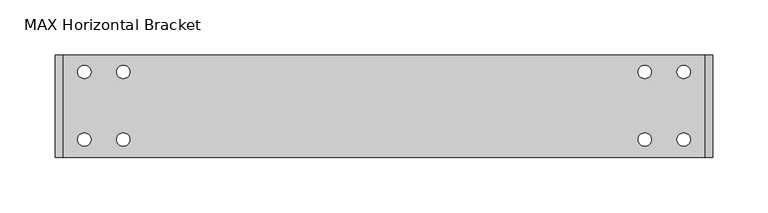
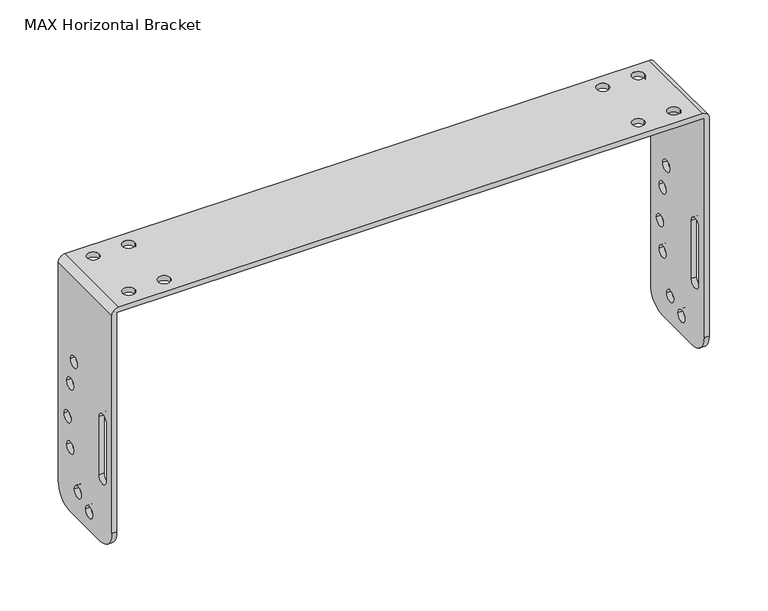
"""IFC4 building model written with IfcOpenShell, lengths in millimetres: proxy geometry, d&b M-Series MAX Horizontal Bracket : MAX Horizontal Bracket."""

import ifcopenshell
import ifcopenshell.guid

model = None  # the IFC model being written
_history = None  # IfcOwnerHistory: only IFC2X3 demands one
_inside = {}  # id of a spatial element -> (the spatial element, [elements in it])
_under = {}  # id of a project, library or spatial element -> (it, [spatial elements below it])
_declared = {}  # id of a project -> (the project, [libraries it declares])
_typed = {}  # id of a type object -> (the type object, [elements of that type])
_made_of = {}  # id of a material, layer set ... -> (it, [elements and type objects made of it])


def new_model(schema):
    """Start an empty IFC model of exactly this schema.

    Asked for "IFC4X3", IfcOpenShell would pick the latest addendum, in which some entities
    have other attributes; the version numbers below select the first issue.
    IFC2X3 requires an IfcOwnerHistory on every rooted entity: one is made here for all.
    """
    global model, _history
    if schema == "IFC4X3":
        model = ifcopenshell.file(schema_version=(4, 3, 0, 0))
    else:
        model = ifcopenshell.file(schema=schema)
    _inside.clear()
    _under.clear()
    _declared.clear()
    _typed.clear()
    _made_of.clear()
    _history = None
    if model.schema == "IFC2X3":
        org = make("IfcOrganization", Name="unknown")
        user = make(
            "IfcPersonAndOrganization",
            ThePerson=make("IfcPerson", FamilyName="unknown"),
            TheOrganization=org,
        )
        app = make(
            "IfcApplication",
            ApplicationDeveloper=org,
            Version="unknown",
            ApplicationFullName="unknown",
            ApplicationIdentifier="unknown",
        )
        _history = make(
            "IfcOwnerHistory",
            OwningUser=user,
            OwningApplication=app,
            ChangeAction="ADDED",
            CreationDate=0,
        )
    return model


def make(cls, **values):
    """One entity of the class cls with the attributes given. An attribute that is None is left unset."""
    return model.create_entity(
        cls, **{name: value for name, value in values.items() if value is not None}
    )


def rooted(cls, **values):
    """An entity with a GlobalId (a new one), such as an element, a storey or a relation."""
    return make(cls, GlobalId=ifcopenshell.guid.new(), OwnerHistory=_history, **values)


def si_unit(unit_type, name, prefix=None):
    """IfcSIUnit, for example si_unit("LENGTHUNIT", "METRE", prefix="MILLI")."""
    return make("IfcSIUnit", UnitType=unit_type, Prefix=prefix, Name=name)


def assignment(units):
    """IfcUnitAssignment: the units of a project."""
    return None if units is None else make("IfcUnitAssignment", Units=units)


def point(xyz):
    """IfcCartesianPoint."""
    return None if xyz is None else make("IfcCartesianPoint", Coordinates=xyz)


def direction(xyz):
    """IfcDirection."""
    return None if xyz is None else make("IfcDirection", DirectionRatios=xyz)


def frame(location, z_axis=None, x_axis=None):
    """IfcAxis2Placement3D, a coordinate frame: its origin and axes. An axis left out is left unset."""
    return make(
        "IfcAxis2Placement3D",
        Location=point(location),
        Axis=direction(z_axis),
        RefDirection=direction(x_axis),
    )


def origin():
    """The frame at (0, 0, 0) with its axes left unset."""
    return frame((0.0, 0.0, 0.0))


def place(relative_to, where):
    """IfcLocalPlacement: puts the frame where relative to a parent placement (None: the world)."""
    return make(
        "IfcLocalPlacement", PlacementRelTo=relative_to, RelativePlacement=where
    )


def context(
    kind, dimensions, precision=None, world=None, true_north=None, identifier=None
):
    """IfcGeometricRepresentationContext, for example the 3D "Model" context."""
    return make(
        "IfcGeometricRepresentationContext",
        ContextIdentifier=identifier,
        ContextType=kind,
        CoordinateSpaceDimension=dimensions,
        Precision=precision,
        WorldCoordinateSystem=world,
        TrueNorth=true_north,
    )


def project(units=None, contexts=None):
    """IfcProject with its units and contexts."""
    return rooted(
        "IfcProject",
        Name="project",
        RepresentationContexts=contexts,
        UnitsInContext=assignment(units),
    )


def spatial(cls, under=None, at=None, **own):
    """A site, building, storey or space (cls), placed at a placement, below another one or the project."""
    s = rooted(cls, ObjectPlacement=at, **own)
    if under is not None:
        _under.setdefault(under.id(), (under, []))[1].append(s)
    return s


def polyline(points):
    """IfcPolyline through the points."""
    return make("IfcPolyline", Points=[point(p) for p in points])


def circle_curve(where, radius):
    """IfcCircle in the frame where."""
    return make("IfcCircle", Position=where, Radius=radius)


def shape(context_of_items, identifier, shape_type, items):
    """IfcShapeRepresentation: the items that make up one representation, for example the "Body"."""
    return make(
        "IfcShapeRepresentation",
        ContextOfItems=context_of_items,
        RepresentationIdentifier=identifier,
        RepresentationType=shape_type,
        Items=items,
    )


def source(mapping_origin, context_of_items, identifier, shape_type, items):
    """IfcRepresentationMap: a shape defined once, which mapped items show again and again."""
    return make(
        "IfcRepresentationMap",
        MappingOrigin=mapping_origin,
        MappedRepresentation=shape(context_of_items, identifier, shape_type, items),
    )


def transform(
    local_origin,
    x_axis=None,
    y_axis=None,
    z_axis=None,
    scale=None,
    scale2=None,
    scale3=None,
    uniform=True,
):
    """IfcCartesianTransformationOperator3D, or its non-uniform kind. x_axis, y_axis, z_axis: its Axis1, 2, 3."""
    if uniform:
        return make(
            "IfcCartesianTransformationOperator3D",
            Axis1=direction(x_axis),
            Axis2=direction(y_axis),
            LocalOrigin=point(local_origin),
            Scale=scale,
            Axis3=direction(z_axis),
        )
    return make(
        "IfcCartesianTransformationOperator3DnonUniform",
        Axis1=direction(x_axis),
        Axis2=direction(y_axis),
        LocalOrigin=point(local_origin),
        Scale=scale,
        Axis3=direction(z_axis),
        Scale2=scale2,
        Scale3=scale3,
    )


def mapped(mapping_source, mapping_target):
    """IfcMappedItem: shows the shape of a source again, moved by a transform."""
    return make(
        "IfcMappedItem", MappingSource=mapping_source, MappingTarget=mapping_target
    )


def made_of(thing, what):
    """Note that an element or type object is made of a material, layer set ...; save() writes the relation."""
    if what is not None:
        _made_of.setdefault(what.id(), (what, []))[1].append(thing)
    return thing


def element(
    cls,
    number,
    at=None,
    inside=None,
    cuts=None,
    type_object=None,
    material=None,
    context=None,
    identifier="Body",
    shape_type=None,
    held_by="IfcProductDefinitionShape",
    body=None,
    shapes=None,
    **own,
):
    """One element of the class cls, such as IfcWall. Its Tag is "e" and its number.

    at: its placement. inside: the storey or other place that contains it. cuts: it is an
    opening in that element (IfcRelVoidsElement). A single representation is given by context,
    identifier, shape_type and body (its items); several are given by shapes. held_by: the class
    of the entity that holds the representations. save() writes the other relations.
    """
    e = rooted(cls, Tag="e%d" % number, ObjectPlacement=at, **own)
    if body is not None:
        shapes = [shape(context, identifier, shape_type, body)]
    if shapes is not None:
        e.Representation = make(held_by, Representations=shapes)
    if inside is not None:
        _inside.setdefault(inside.id(), (inside, []))[1].append(e)
    if cuts is not None:
        rooted(
            "IfcRelVoidsElement", RelatingBuildingElement=cuts, RelatedOpeningElement=e
        )
    if type_object is not None:
        _typed.setdefault(type_object.id(), (type_object, []))[1].append(e)
    return made_of(e, material)


def aggregate(whole, parts):
    """IfcRelAggregates: a whole, such as a stair, and the parts it consists of."""
    return rooted("IfcRelAggregates", RelatingObject=whole, RelatedObjects=parts)


def save(model, path):
    """Write the relations noted so far, then the file.

    IfcRelAggregates (storeys below a building ...), IfcRelContainedInSpatialStructure (elements
    in a storey), IfcRelDefinesByType, IfcRelAssociatesMaterial and IfcRelDeclares: one each for
    every whole, place, type object, material and project.
    """
    for whole, parts in _under.values():
        aggregate(whole, parts)
    for where, things in _inside.values():
        rooted(
            "IfcRelContainedInSpatialStructure",
            RelatedElements=things,
            RelatingStructure=where,
        )
    for kind, things in _typed.values():
        rooted("IfcRelDefinesByType", RelatedObjects=things, RelatingType=kind)
    for what, things in _made_of.values():
        rooted("IfcRelAssociatesMaterial", RelatedObjects=things, RelatingMaterial=what)
    for by, libraries in _declared.values():
        rooted("IfcRelDeclares", RelatingContext=by, RelatedDefinitions=libraries)
    model.write(path)


def plane_surface(at):
    """IfcPlane: the flat surface through the origin of the frame at, square to its z axis."""
    return make("IfcPlane", Position=at)


def cylinder_surface(at, radius):
    """IfcCylindricalSurface: all points at the distance radius from the z axis of the frame at."""
    return make("IfcCylindricalSurface", Position=at, Radius=radius)


def revolved_surface(curve, axis_point, axis_direction):
    """IfcSurfaceOfRevolution: the curve turned about the line through axis_point along axis_direction."""
    return make(
        "IfcSurfaceOfRevolution",
        SweptCurve=make("IfcArbitraryOpenProfileDef", ProfileType="CURVE", Curve=curve),
        AxisPosition=make("IfcAxis1Placement", Location=point(axis_point), Axis=direction(axis_direction)),
    )


def advanced_brep(points, edges, surfaces, faces):
    """IfcAdvancedBrep: a solid bounded by faces that lie on surfaces and meet in shared edges.

    An edge is (start, end): straight between two places in points (the first is 0);
    or (start, end, curve); or (start, end, curve, False) where it runs against its curve.
    A face is (place in surfaces, loops), or (place, loops, False) where it looks against
    its surface's normal. A loop lists edges by number (the first is 1), with a minus sign
    where the edge is run from its end to its start. The first loop is the outer one.
    """
    corners = [point(p) for p in points]
    vertices = [make("IfcVertexPoint", VertexGeometry=c) for c in corners]
    made = []
    for start, end, *more in edges:
        made.append(
            make(
                "IfcEdgeCurve",
                EdgeStart=vertices[start],
                EdgeEnd=vertices[end],
                EdgeGeometry=more[0] if more else make("IfcPolyline", Points=[corners[start], corners[end]]),
                SameSense=more[1] if len(more) > 1 else True,
            )
        )
    hull = []
    for where, loops, *sense in faces:
        bounds = []
        for j, loop in enumerate(loops):
            ring = [make("IfcOrientedEdge", EdgeElement=made[abs(k) - 1], Orientation=k > 0) for k in loop]
            bounds.append(
                make(
                    "IfcFaceOuterBound" if j == 0 else "IfcFaceBound",
                    Bound=make("IfcEdgeLoop", EdgeList=ring),
                    Orientation=True,
                )
            )
        hull.append(make("IfcAdvancedFace", Bounds=bounds, FaceSurface=surfaces[where], SameSense=sense[0] if sense else True))
    return make("IfcAdvancedBrep", Outer=make("IfcClosedShell", CfsFaces=hull))


def max_horizontal_bracket_4bbb9378(model_context):
    return source(origin(), model_context, "Body", "AdvancedBrep", [
        advanced_brep(
        [(-365.1633527, -38.9610059, 231.2224562), (216.8366473, -38.9610059, 231.2224562), (216.8366473, -38.9610059, 1.2224562), (221.8366473, -38.9610059, 1.2224562), (221.8366473, -38.9610059, 229.2224562), (214.8366473, -38.9610059, 236.2224562), (-363.1633527, -38.9610059, 236.2224562), (-370.1633527, -38.9610059, 229.2224562), (-370.1633527, -38.9610059, 1.2224562), (-365.1633527, -38.9610059, 1.2224562), (-370.1633527, 53.0389941, 229.2224562), (-363.1633527, 53.0389941, 236.2224562), (214.8366473, 53.0389941, 236.2224562), (221.8366473, 53.0389941, 229.2224562), (221.8366473, 53.0389941, 1.2224562), (216.8366473, 53.0389941, 1.2224562), (216.8366473, 53.0389941, 231.2224562), (-365.1633527, 53.0389941, 231.2224562), (-365.1633527, 53.0389941, 1.2224562), (-370.1633527, 53.0389941, 1.2224562), (-370.1633527, -18.9610059, -18.7775438), (-370.1633527, 33.0389941, -18.7775438), (-365.1633527, 33.0389941, -18.7775438), (-365.1633527, -18.9610059, -18.7775438), (-365.1633527, 20.1881167, 141.6370424), (-365.1633527, 32.1881167, 141.6370424), (-365.1633527, 26.471766, 115.1668943), (-365.1633527, 38.471766, 115.1668943), (-365.1633527, 31.0389941, 78.1106339), (-365.1633527, 43.0389941, 78.1106339), (-365.1633527, 26.471766, 48.0141991), (-365.1633527, 38.471766, 48.0141991), (-365.1633527, 13.4654009, 9.0563936), (-365.1633527, 25.4654009, 9.0563936), (-365.1633527, -6.0, 0.0), (-365.1633527, 6.0, 0.0), (-365.1633527, -16.9610059, 49.4828004), (-365.1633527, -28.9610059, 49.4828004), (-365.1633527, -28.9610059, 110.5224562), (-365.1633527, -16.9610059, 110.5224562), (-338.1633527, 38.0389941, 231.2224562), (-350.1633527, 38.0389941, 231.2224562), (-338.1633527, -22.9610059, 231.2224562), (-350.1633527, -22.9610059, 231.2224562), (201.8366473, 38.0389941, 231.2224562), (189.8366473, 38.0389941, 231.2224562), (201.8366473, -22.9610059, 231.2224562), (189.8366473, -22.9610059, 231.2224562), (-303.1633527, 38.0389941, 231.2224562), (-315.1633527, 38.0389941, 231.2224562), (-303.1633527, -22.9610059, 231.2224562), (-315.1633527, -22.9610059, 231.2224562), (154.8366473, 38.0389941, 231.2224562), (166.8366473, 38.0389941, 231.2224562), (154.8366473, -22.9610059, 231.2224562), (166.8366473, -22.9610059, 231.2224562), (216.8366473, 33.0389941, -18.7775438), (216.8366473, -18.9610059, -18.7775438), (216.8366473, 32.1881167, 141.6370424), (216.8366473, 20.1881167, 141.6370424), (216.8366473, 38.471766, 115.1668943), (216.8366473, 26.471766, 115.1668943), (216.8366473, 43.0389941, 78.1106339), (216.8366473, 31.0389941, 78.1106339), (216.8366473, 38.471766, 48.0141991), (216.8366473, 26.471766, 48.0141991), (216.8366473, 25.4654009, 9.0563936), (216.8366473, 13.4654009, 9.0563936), (216.8366473, 6.0, 0.0), (216.8366473, -6.0, 0.0), (216.8366473, -28.9610059, 49.4828004), (216.8366473, -16.9610059, 49.4828004), (216.8366473, -16.9610059, 110.5224562), (216.8366473, -28.9610059, 110.5224562), (221.8366473, 33.0389941, -18.7775438), (221.8366473, -18.9610059, -18.7775438), (221.8366473, 20.1881167, 141.6370424), (221.8366473, 32.1881167, 141.6370424), (221.8366473, 26.471766, 115.1668943), (221.8366473, 38.471766, 115.1668943), (221.8366473, 31.0389941, 78.1106339), (221.8366473, 43.0389941, 78.1106339), (221.8366473, 26.471766, 48.0141991), (221.8366473, 38.471766, 48.0141991), (221.8366473, 13.4654009, 9.0563936), (221.8366473, 25.4654009, 9.0563936), (221.8366473, -6.0, 0.0), (221.8366473, 6.0, 0.0), (221.8366473, -16.9610059, 49.4828004), (221.8366473, -28.9610059, 49.4828004), (221.8366473, -28.9610059, 110.5224562), (221.8366473, -16.9610059, 110.5224562), (-350.1633527, 38.0389941, 236.2224562), (-338.1633527, 38.0389941, 236.2224562), (-350.1633527, -22.9610059, 236.2224562), (-338.1633527, -22.9610059, 236.2224562), (189.8366473, 38.0389941, 236.2224562), (201.8366473, 38.0389941, 236.2224562), (189.8366473, -22.9610059, 236.2224562), (201.8366473, -22.9610059, 236.2224562), (-315.1633527, 38.0389941, 236.2224562), (-303.1633527, 38.0389941, 236.2224562), (-315.1633527, -22.9610059, 236.2224562), (-303.1633527, -22.9610059, 236.2224562), (166.8366473, 38.0389941, 236.2224562), (154.8366473, 38.0389941, 236.2224562), (166.8366473, -22.9610059, 236.2224562), (154.8366473, -22.9610059, 236.2224562), (-370.1633527, 32.1881167, 141.6370424), (-370.1633527, 20.1881167, 141.6370424), (-370.1633527, 38.471766, 115.1668943), (-370.1633527, 26.471766, 115.1668943), (-370.1633527, 43.0389941, 78.1106339), (-370.1633527, 31.0389941, 78.1106339), (-370.1633527, 38.471766, 48.0141991), (-370.1633527, 26.471766, 48.0141991), (-370.1633527, 25.4654009, 9.0563936), (-370.1633527, 13.4654009, 9.0563936), (-370.1633527, 6.0, 0.0), (-370.1633527, -6.0, 0.0), (-370.1633527, -28.9610059, 49.4828004), (-370.1633527, -16.9610059, 49.4828004), (-370.1633527, -16.9610059, 110.5224562), (-370.1633527, -28.9610059, 110.5224562)],
        [
            (0, 1),
            (1, 2),
            (2, 3),
            (3, 4),
            (4, 5, circle_curve(frame((214.8366473, -38.9610059, 229.2224562), z_axis=(0.0, -1.0, 0.0), x_axis=(1.0, 0.0, 0.0)), 7.0)),
            (5, 6),
            (6, 7, circle_curve(frame((-363.1633527, -38.9610059, 229.2224562), z_axis=(0.0, -1.0, 0.0), x_axis=(1.0, 0.0, 0.0)), 7.0)),
            (7, 8),
            (8, 9),
            (9, 0),
            (10, 11, circle_curve(frame((-363.1633527, 53.0389941, 229.2224562), z_axis=(0.0, 1.0, 0.0), x_axis=(1.0, 0.0, 0.0)), 7.0)),
            (11, 12),
            (12, 13, circle_curve(frame((214.8366473, 53.0389941, 229.2224562), z_axis=(0.0, 1.0, 0.0), x_axis=(1.0, 0.0, 0.0)), 7.0)),
            (13, 14),
            (14, 15),
            (15, 16),
            (16, 17),
            (17, 18),
            (18, 19),
            (19, 10),
            (20, 21),
            (21, 22),
            (22, 23),
            (23, 20),
            (17, 0),
            (9, 23, circle_curve(frame((-365.1633527, -18.9610059, 1.2224562), z_axis=(1.0, 0.0, 0.0), x_axis=(0.0, 0.0, -1.0)), 20.0)),
            (22, 18, circle_curve(frame((-365.1633527, 33.0389941, 1.2224562), z_axis=(1.0, 0.0, 0.0), x_axis=(0.0, 0.0, -1.0)), 20.0)),
            (24, 25, circle_curve(frame((-365.1633527, 26.1881167, 141.6370424), z_axis=(-1.0, 0.0, 0.0), x_axis=(0.0, -1.0, 0.0)), 6.0)),
            (25, 24, circle_curve(frame((-365.1633527, 26.1881167, 141.6370424), z_axis=(-1.0, 0.0, 0.0), x_axis=(0.0, -1.0, 0.0)), 6.0)),
            (26, 27, circle_curve(frame((-365.1633527, 32.471766, 115.1668943), z_axis=(-1.0, 0.0, 0.0), x_axis=(0.0, -1.0, 0.0)), 6.0)),
            (27, 26, circle_curve(frame((-365.1633527, 32.471766, 115.1668943), z_axis=(-1.0, 0.0, 0.0), x_axis=(0.0, -1.0, 0.0)), 6.0)),
            (28, 29, circle_curve(frame((-365.1633527, 37.0389941, 78.1106339), z_axis=(-1.0, 0.0, 0.0), x_axis=(0.0, -1.0, 0.0)), 6.0)),
            (29, 28, circle_curve(frame((-365.1633527, 37.0389941, 78.1106339), z_axis=(-1.0, 0.0, 0.0), x_axis=(0.0, -1.0, 0.0)), 6.0)),
            (30, 31, circle_curve(frame((-365.1633527, 32.471766, 48.0141991), z_axis=(-1.0, 0.0, 0.0), x_axis=(0.0, -1.0, 0.0)), 6.0)),
            (31, 30, circle_curve(frame((-365.1633527, 32.471766, 48.0141991), z_axis=(-1.0, 0.0, 0.0), x_axis=(0.0, -1.0, 0.0)), 6.0)),
            (32, 33, circle_curve(frame((-365.1633527, 19.4654009, 9.0563936), z_axis=(-1.0, 0.0, 0.0), x_axis=(0.0, -1.0, 0.0)), 6.0)),
            (33, 32, circle_curve(frame((-365.1633527, 19.4654009, 9.0563936), z_axis=(-1.0, 0.0, 0.0), x_axis=(0.0, -1.0, 0.0)), 6.0)),
            (34, 35, circle_curve(frame((-365.1633527, 0.0, 0.0), z_axis=(-1.0, 0.0, 0.0), x_axis=(0.0, -1.0, 0.0)), 6.0)),
            (35, 34, circle_curve(frame((-365.1633527, 0.0, 0.0), z_axis=(-1.0, 0.0, 0.0), x_axis=(0.0, -1.0, 0.0)), 6.0)),
            (36, 37, circle_curve(frame((-365.1633527, -22.9610059, 49.4828004), z_axis=(-1.0, 0.0, 0.0), x_axis=(0.0, 1.0, 0.0)), 6.0)),
            (37, 38),
            (38, 39, circle_curve(frame((-365.1633527, -22.9610059, 110.5224562), z_axis=(-1.0, 0.0, 0.0), x_axis=(0.0, -1.0, 0.0)), 6.0)),
            (39, 36),
            (16, 1),
            (40, 41, circle_curve(frame((-344.1633527, 38.0389941, 231.2224562), z_axis=(0.0, 0.0, 1.0), x_axis=(-1.0, 0.0, 0.0)), 6.0)),
            (41, 40, circle_curve(frame((-344.1633527, 38.0389941, 231.2224562), z_axis=(0.0, 0.0, 1.0), x_axis=(-1.0, 0.0, 0.0)), 6.0)),
            (42, 43, circle_curve(frame((-344.1633527, -22.9610059, 231.2224562), z_axis=(0.0, 0.0, 1.0), x_axis=(-1.0, 0.0, 0.0)), 6.0)),
            (43, 42, circle_curve(frame((-344.1633527, -22.9610059, 231.2224562), z_axis=(0.0, 0.0, 1.0), x_axis=(-1.0, 0.0, 0.0)), 6.0)),
            (44, 45, circle_curve(frame((195.8366473, 38.0389941, 231.2224562), z_axis=(0.0, 0.0, 1.0), x_axis=(-1.0, 0.0, 0.0)), 6.0)),
            (45, 44, circle_curve(frame((195.8366473, 38.0389941, 231.2224562), z_axis=(0.0, 0.0, 1.0), x_axis=(-1.0, 0.0, 0.0)), 6.0)),
            (46, 47, circle_curve(frame((195.8366473, -22.9610059, 231.2224562), z_axis=(0.0, 0.0, 1.0), x_axis=(-1.0, 0.0, 0.0)), 6.0)),
            (47, 46, circle_curve(frame((195.8366473, -22.9610059, 231.2224562), z_axis=(0.0, 0.0, 1.0), x_axis=(-1.0, 0.0, 0.0)), 6.0)),
            (48, 49, circle_curve(frame((-309.1633527, 38.0389941, 231.2224562), z_axis=(0.0, 0.0, 1.0), x_axis=(-1.0, 0.0, 0.0)), 6.0)),
            (49, 48, circle_curve(frame((-309.1633527, 38.0389941, 231.2224562), z_axis=(0.0, 0.0, 1.0), x_axis=(-1.0, 0.0, 0.0)), 6.0)),
            (50, 51, circle_curve(frame((-309.1633527, -22.9610059, 231.2224562), z_axis=(0.0, 0.0, 1.0), x_axis=(-1.0, 0.0, 0.0)), 6.0)),
            (51, 50, circle_curve(frame((-309.1633527, -22.9610059, 231.2224562), z_axis=(0.0, 0.0, 1.0), x_axis=(-1.0, 0.0, 0.0)), 6.0)),
            (52, 53, circle_curve(frame((160.8366473, 38.0389941, 231.2224562), z_axis=(0.0, 0.0, 1.0), x_axis=(1.0, 0.0, 0.0)), 6.0)),
            (53, 52, circle_curve(frame((160.8366473, 38.0389941, 231.2224562), z_axis=(0.0, 0.0, 1.0), x_axis=(1.0, 0.0, 0.0)), 6.0)),
            (54, 55, circle_curve(frame((160.8366473, -22.9610059, 231.2224562), z_axis=(0.0, 0.0, 1.0), x_axis=(1.0, 0.0, 0.0)), 6.0)),
            (55, 54, circle_curve(frame((160.8366473, -22.9610059, 231.2224562), z_axis=(0.0, 0.0, 1.0), x_axis=(1.0, 0.0, 0.0)), 6.0)),
            (15, 56, circle_curve(frame((216.8366473, 33.0389941, 1.2224562), z_axis=(-1.0, 0.0, 0.0), x_axis=(0.0, 0.0, -1.0)), 20.0)),
            (56, 57),
            (57, 2, circle_curve(frame((216.8366473, -18.9610059, 1.2224562), z_axis=(-1.0, 0.0, 0.0), x_axis=(0.0, 0.0, -1.0)), 20.0)),
            (58, 59, circle_curve(frame((216.8366473, 26.1881167, 141.6370424), z_axis=(1.0, 0.0, 0.0), x_axis=(0.0, -1.0, 0.0)), 6.0)),
            (59, 58, circle_curve(frame((216.8366473, 26.1881167, 141.6370424), z_axis=(1.0, 0.0, 0.0), x_axis=(0.0, -1.0, 0.0)), 6.0)),
            (60, 61, circle_curve(frame((216.8366473, 32.471766, 115.1668943), z_axis=(1.0, 0.0, 0.0), x_axis=(0.0, -1.0, 0.0)), 6.0)),
            (61, 60, circle_curve(frame((216.8366473, 32.471766, 115.1668943), z_axis=(1.0, 0.0, 0.0), x_axis=(0.0, -1.0, 0.0)), 6.0)),
            (62, 63, circle_curve(frame((216.8366473, 37.0389941, 78.1106339), z_axis=(1.0, 0.0, 0.0), x_axis=(0.0, -1.0, 0.0)), 6.0)),
            (63, 62, circle_curve(frame((216.8366473, 37.0389941, 78.1106339), z_axis=(1.0, 0.0, 0.0), x_axis=(0.0, -1.0, 0.0)), 6.0)),
            (64, 65, circle_curve(frame((216.8366473, 32.471766, 48.0141991), z_axis=(1.0, 0.0, 0.0), x_axis=(0.0, -1.0, 0.0)), 6.0)),
            (65, 64, circle_curve(frame((216.8366473, 32.471766, 48.0141991), z_axis=(1.0, 0.0, 0.0), x_axis=(0.0, -1.0, 0.0)), 6.0)),
            (66, 67, circle_curve(frame((216.8366473, 19.4654009, 9.0563936), z_axis=(1.0, 0.0, 0.0), x_axis=(0.0, -1.0, 0.0)), 6.0)),
            (67, 66, circle_curve(frame((216.8366473, 19.4654009, 9.0563936), z_axis=(1.0, 0.0, 0.0), x_axis=(0.0, -1.0, 0.0)), 6.0)),
            (68, 69, circle_curve(frame((216.8366473, 0.0, 0.0), z_axis=(1.0, 0.0, 0.0), x_axis=(0.0, -1.0, 0.0)), 6.0)),
            (69, 68, circle_curve(frame((216.8366473, 0.0, 0.0), z_axis=(1.0, 0.0, 0.0), x_axis=(0.0, -1.0, 0.0)), 6.0)),
            (70, 71, circle_curve(frame((216.8366473, -22.9610059, 49.4828004), z_axis=(1.0, 0.0, 0.0), x_axis=(0.0, 1.0, 0.0)), 6.0)),
            (71, 72),
            (72, 73, circle_curve(frame((216.8366473, -22.9610059, 110.5224562), z_axis=(1.0, 0.0, 0.0), x_axis=(0.0, -1.0, 0.0)), 6.0)),
            (73, 70),
            (56, 74),
            (74, 75),
            (75, 57),
            (13, 4),
            (3, 75, circle_curve(frame((221.8366473, -18.9610059, 1.2224562), z_axis=(1.0, 0.0, 0.0), x_axis=(0.0, 0.0, -1.0)), 20.0)),
            (74, 14, circle_curve(frame((221.8366473, 33.0389941, 1.2224562), z_axis=(1.0, 0.0, 0.0), x_axis=(0.0, 0.0, -1.0)), 20.0)),
            (76, 77, circle_curve(frame((221.8366473, 26.1881167, 141.6370424), z_axis=(-1.0, 0.0, 0.0), x_axis=(0.0, -1.0, 0.0)), 6.0)),
            (77, 76, circle_curve(frame((221.8366473, 26.1881167, 141.6370424), z_axis=(-1.0, 0.0, 0.0), x_axis=(0.0, -1.0, 0.0)), 6.0)),
            (78, 79, circle_curve(frame((221.8366473, 32.471766, 115.1668943), z_axis=(-1.0, 0.0, 0.0), x_axis=(0.0, -1.0, 0.0)), 6.0)),
            (79, 78, circle_curve(frame((221.8366473, 32.471766, 115.1668943), z_axis=(-1.0, 0.0, 0.0), x_axis=(0.0, -1.0, 0.0)), 6.0)),
            (80, 81, circle_curve(frame((221.8366473, 37.0389941, 78.1106339), z_axis=(-1.0, 0.0, 0.0), x_axis=(0.0, -1.0, 0.0)), 6.0)),
            (81, 80, circle_curve(frame((221.8366473, 37.0389941, 78.1106339), z_axis=(-1.0, 0.0, 0.0), x_axis=(0.0, -1.0, 0.0)), 6.0)),
            (82, 83, circle_curve(frame((221.8366473, 32.471766, 48.0141991), z_axis=(-1.0, 0.0, 0.0), x_axis=(0.0, -1.0, 0.0)), 6.0)),
            (83, 82, circle_curve(frame((221.8366473, 32.471766, 48.0141991), z_axis=(-1.0, 0.0, 0.0), x_axis=(0.0, -1.0, 0.0)), 6.0)),
            (84, 85, circle_curve(frame((221.8366473, 19.4654009, 9.0563936), z_axis=(-1.0, 0.0, 0.0), x_axis=(0.0, -1.0, 0.0)), 6.0)),
            (85, 84, circle_curve(frame((221.8366473, 19.4654009, 9.0563936), z_axis=(-1.0, 0.0, 0.0), x_axis=(0.0, -1.0, 0.0)), 6.0)),
            (86, 87, circle_curve(frame((221.8366473, 0.0, 0.0), z_axis=(-1.0, 0.0, 0.0), x_axis=(0.0, -1.0, 0.0)), 6.0)),
            (87, 86, circle_curve(frame((221.8366473, 0.0, 0.0), z_axis=(-1.0, 0.0, 0.0), x_axis=(0.0, -1.0, 0.0)), 6.0)),
            (88, 89, circle_curve(frame((221.8366473, -22.9610059, 49.4828004), z_axis=(-1.0, 0.0, 0.0), x_axis=(0.0, 1.0, 0.0)), 6.0)),
            (89, 90),
            (90, 91, circle_curve(frame((221.8366473, -22.9610059, 110.5224562), z_axis=(-1.0, 0.0, 0.0), x_axis=(0.0, -1.0, 0.0)), 6.0)),
            (91, 88),
            (5, 12),
            (11, 6),
            (92, 93, circle_curve(frame((-344.1633527, 38.0389941, 236.2224562), z_axis=(0.0, 0.0, -1.0), x_axis=(-1.0, 0.0, 0.0)), 6.0)),
            (93, 92, circle_curve(frame((-344.1633527, 38.0389941, 236.2224562), z_axis=(0.0, 0.0, -1.0), x_axis=(-1.0, 0.0, 0.0)), 6.0)),
            (94, 95, circle_curve(frame((-344.1633527, -22.9610059, 236.2224562), z_axis=(0.0, 0.0, -1.0), x_axis=(-1.0, 0.0, 0.0)), 6.0)),
            (95, 94, circle_curve(frame((-344.1633527, -22.9610059, 236.2224562), z_axis=(0.0, 0.0, -1.0), x_axis=(-1.0, 0.0, 0.0)), 6.0)),
            (96, 97, circle_curve(frame((195.8366473, 38.0389941, 236.2224562), z_axis=(0.0, 0.0, -1.0), x_axis=(-1.0, 0.0, 0.0)), 6.0)),
            (97, 96, circle_curve(frame((195.8366473, 38.0389941, 236.2224562), z_axis=(0.0, 0.0, -1.0), x_axis=(-1.0, 0.0, 0.0)), 6.0)),
            (98, 99, circle_curve(frame((195.8366473, -22.9610059, 236.2224562), z_axis=(0.0, 0.0, -1.0), x_axis=(-1.0, 0.0, 0.0)), 6.0)),
            (99, 98, circle_curve(frame((195.8366473, -22.9610059, 236.2224562), z_axis=(0.0, 0.0, -1.0), x_axis=(-1.0, 0.0, 0.0)), 6.0)),
            (100, 101, circle_curve(frame((-309.1633527, 38.0389941, 236.2224562), z_axis=(0.0, 0.0, -1.0), x_axis=(-1.0, 0.0, 0.0)), 6.0)),
            (101, 100, circle_curve(frame((-309.1633527, 38.0389941, 236.2224562), z_axis=(0.0, 0.0, -1.0), x_axis=(-1.0, 0.0, 0.0)), 6.0)),
            (102, 103, circle_curve(frame((-309.1633527, -22.9610059, 236.2224562), z_axis=(0.0, 0.0, -1.0), x_axis=(-1.0, 0.0, 0.0)), 6.0)),
            (103, 102, circle_curve(frame((-309.1633527, -22.9610059, 236.2224562), z_axis=(0.0, 0.0, -1.0), x_axis=(-1.0, 0.0, 0.0)), 6.0)),
            (104, 105, circle_curve(frame((160.8366473, 38.0389941, 236.2224562), z_axis=(0.0, 0.0, -1.0), x_axis=(1.0, 0.0, 0.0)), 6.0)),
            (105, 104, circle_curve(frame((160.8366473, 38.0389941, 236.2224562), z_axis=(0.0, 0.0, -1.0), x_axis=(1.0, 0.0, 0.0)), 6.0)),
            (106, 107, circle_curve(frame((160.8366473, -22.9610059, 236.2224562), z_axis=(0.0, 0.0, -1.0), x_axis=(1.0, 0.0, 0.0)), 6.0)),
            (107, 106, circle_curve(frame((160.8366473, -22.9610059, 236.2224562), z_axis=(0.0, 0.0, -1.0), x_axis=(1.0, 0.0, 0.0)), 6.0)),
            (7, 10),
            (19, 21, circle_curve(frame((-370.1633527, 33.0389941, 1.2224562), z_axis=(-1.0, 0.0, 0.0), x_axis=(0.0, 0.0, -1.0)), 20.0)),
            (20, 8, circle_curve(frame((-370.1633527, -18.9610059, 1.2224562), z_axis=(-1.0, 0.0, 0.0), x_axis=(0.0, 0.0, -1.0)), 20.0)),
            (108, 109, circle_curve(frame((-370.1633527, 26.1881167, 141.6370424), z_axis=(1.0, 0.0, 0.0), x_axis=(0.0, -1.0, 0.0)), 6.0)),
            (109, 108, circle_curve(frame((-370.1633527, 26.1881167, 141.6370424), z_axis=(1.0, 0.0, 0.0), x_axis=(0.0, -1.0, 0.0)), 6.0)),
            (110, 111, circle_curve(frame((-370.1633527, 32.471766, 115.1668943), z_axis=(1.0, 0.0, 0.0), x_axis=(0.0, -1.0, 0.0)), 6.0)),
            (111, 110, circle_curve(frame((-370.1633527, 32.471766, 115.1668943), z_axis=(1.0, 0.0, 0.0), x_axis=(0.0, -1.0, 0.0)), 6.0)),
            (112, 113, circle_curve(frame((-370.1633527, 37.0389941, 78.1106339), z_axis=(1.0, 0.0, 0.0), x_axis=(0.0, -1.0, 0.0)), 6.0)),
            (113, 112, circle_curve(frame((-370.1633527, 37.0389941, 78.1106339), z_axis=(1.0, 0.0, 0.0), x_axis=(0.0, -1.0, 0.0)), 6.0)),
            (114, 115, circle_curve(frame((-370.1633527, 32.471766, 48.0141991), z_axis=(1.0, 0.0, 0.0), x_axis=(0.0, -1.0, 0.0)), 6.0)),
            (115, 114, circle_curve(frame((-370.1633527, 32.471766, 48.0141991), z_axis=(1.0, 0.0, 0.0), x_axis=(0.0, -1.0, 0.0)), 6.0)),
            (116, 117, circle_curve(frame((-370.1633527, 19.4654009, 9.0563936), z_axis=(1.0, 0.0, 0.0), x_axis=(0.0, -1.0, 0.0)), 6.0)),
            (117, 116, circle_curve(frame((-370.1633527, 19.4654009, 9.0563936), z_axis=(1.0, 0.0, 0.0), x_axis=(0.0, -1.0, 0.0)), 6.0)),
            (118, 119, circle_curve(frame((-370.1633527, 0.0, 0.0), z_axis=(1.0, 0.0, 0.0), x_axis=(0.0, -1.0, 0.0)), 6.0)),
            (119, 118, circle_curve(frame((-370.1633527, 0.0, 0.0), z_axis=(1.0, 0.0, 0.0), x_axis=(0.0, -1.0, 0.0)), 6.0)),
            (120, 121, circle_curve(frame((-370.1633527, -22.9610059, 49.4828004), z_axis=(1.0, 0.0, 0.0), x_axis=(0.0, 1.0, 0.0)), 6.0)),
            (121, 122),
            (122, 123, circle_curve(frame((-370.1633527, -22.9610059, 110.5224562), z_axis=(1.0, 0.0, 0.0), x_axis=(0.0, -1.0, 0.0)), 6.0)),
            (123, 120),
            (58, 77),
            (76, 59),
            (108, 25),
            (24, 109),
            (60, 79),
            (78, 61),
            (110, 27),
            (26, 111),
            (62, 81),
            (80, 63),
            (112, 29),
            (28, 113),
            (64, 83),
            (82, 65),
            (114, 31),
            (30, 115),
            (66, 85),
            (84, 67),
            (116, 33),
            (32, 117),
            (68, 87),
            (86, 69),
            (118, 35),
            (34, 119),
            (70, 89),
            (88, 71),
            (120, 37),
            (36, 121),
            (91, 72),
            (39, 122),
            (90, 73),
            (38, 123),
            (40, 93),
            (92, 41),
            (42, 95),
            (94, 43),
            (44, 97),
            (96, 45),
            (46, 99),
            (98, 47),
            (48, 101),
            (100, 49),
            (50, 103),
            (102, 51),
            (52, 105),
            (104, 53),
            (54, 107),
            (106, 55),
        ],
        [
            plane_surface(frame((-371.1633527, -38.9610059, -18.7775438), z_axis=(0.0, -1.0, 0.0), x_axis=(1.0, 0.0, 0.0))),
            plane_surface(frame((-371.1633527, 53.0389941, -18.7775438), z_axis=(0.0, 1.0, 0.0), x_axis=(-1.0, 0.0, 0.0))),
            plane_surface(frame((-370.1633527, -38.9610059, -18.7775438), z_axis=(0.0, 0.0, -1.0), x_axis=(0.0, 1.0, 0.0))),
            plane_surface(frame((-365.1633527, -38.9610059, -18.7775438), z_axis=(1.0, 0.0, 0.0), x_axis=(0.0, 1.0, 0.0))),
            plane_surface(frame((-365.1633527, -38.9610059, 231.2224562), z_axis=(0.0, 0.0, -1.0), x_axis=(0.0, 1.0, 0.0))),
            plane_surface(frame((216.8366473, -38.9610059, 231.2224562), z_axis=(-1.0, 0.0, 0.0), x_axis=(0.0, 1.0, 0.0))),
            plane_surface(frame((216.8366473, -38.9610059, -18.7775438), z_axis=(0.0, 0.0, -1.0), x_axis=(0.0, 1.0, 0.0))),
            plane_surface(frame((221.8366473, -38.9610059, -18.7775438), z_axis=(1.0, 0.0, 0.0), x_axis=(0.0, 1.0, 0.0))),
            plane_surface(frame((214.8366473, -38.9610059, 236.2224562), z_axis=(0.0, 0.0, 1.0), x_axis=(0.0, 1.0, 0.0))),
            plane_surface(frame((-370.1633527, -38.9610059, 229.2224562), z_axis=(-1.0, 0.0, 0.0), x_axis=(0.0, 1.0, 0.0))),
            cylinder_surface(frame((-474.1633527, -18.9610059, 1.2224562), z_axis=(-1.0, 0.0, 0.0), x_axis=(0.0, 0.0, -1.0)), 20.0),
            cylinder_surface(frame((-74.1633527, 33.0389941, 1.2224562), z_axis=(-1.0, 0.0, 0.0), x_axis=(0.0, 0.0, -1.0)), 20.0),
            revolved_surface(polyline([(221.83664729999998, 20.1881167, 141.6370424), (216.83664729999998, 20.1881167, 141.6370424)]), (-474.1633527, 26.1881167, 141.6370424), (1.0, 0.0, 0.0)),
            revolved_surface(polyline([(-365.1633527, 20.1881167, 141.6370424), (-370.1633527, 20.1881167, 141.6370424)]), (-474.1633527, 26.1881167, 141.6370424), (1.0, 0.0, 0.0)),
            revolved_surface(polyline([(221.83664729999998, 26.471766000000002, 115.1668943), (216.83664729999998, 26.471766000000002, 115.1668943)]), (-74.1633527, 32.471766, 115.1668943), (1.0, 0.0, 0.0)),
            revolved_surface(polyline([(-365.1633527, 26.471766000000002, 115.1668943), (-370.1633527, 26.471766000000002, 115.1668943)]), (-74.1633527, 32.471766, 115.1668943), (1.0, 0.0, 0.0)),
            revolved_surface(polyline([(221.83664729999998, 31.038994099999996, 78.1106339), (216.83664729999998, 31.038994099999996, 78.1106339)]), (-74.1633527, 37.0389941, 78.1106339), (1.0, 0.0, 0.0)),
            revolved_surface(polyline([(-365.1633527, 31.038994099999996, 78.1106339), (-370.1633527, 31.038994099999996, 78.1106339)]), (-74.1633527, 37.0389941, 78.1106339), (1.0, 0.0, 0.0)),
            revolved_surface(polyline([(221.83664729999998, 26.471766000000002, 48.0141991), (216.83664729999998, 26.471766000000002, 48.0141991)]), (-74.1633527, 32.471766, 48.0141991), (1.0, 0.0, 0.0)),
            revolved_surface(polyline([(-365.1633527, 26.471766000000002, 48.0141991), (-370.1633527, 26.471766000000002, 48.0141991)]), (-74.1633527, 32.471766, 48.0141991), (1.0, 0.0, 0.0)),
            revolved_surface(polyline([(221.83664729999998, 13.465400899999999, 9.0563936), (216.83664729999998, 13.465400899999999, 9.0563936)]), (-74.1633527, 19.4654009, 9.0563936), (1.0, 0.0, 0.0)),
            revolved_surface(polyline([(-365.1633527, 13.465400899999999, 9.0563936), (-370.1633527, 13.465400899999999, 9.0563936)]), (-74.1633527, 19.4654009, 9.0563936), (1.0, 0.0, 0.0)),
            revolved_surface(polyline([(221.83664729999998, -6.0, 0.0), (216.83664729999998, -6.0, 0.0)]), (-74.1633527, 0.0, 0.0), (1.0, 0.0, 0.0)),
            revolved_surface(polyline([(-365.1633527, -6.0, 0.0), (-370.1633527, -6.0, 0.0)]), (-74.1633527, 0.0, 0.0), (1.0, 0.0, 0.0)),
            revolved_surface(polyline([(221.83664729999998, -16.9610059, 49.4828004), (216.83664729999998, -16.9610059, 49.4828004)]), (-74.1633527, -22.9610059, 49.4828004), (1.0, 0.0, 0.0)),
            revolved_surface(polyline([(-365.1633527, -16.9610059, 49.4828004), (-370.1633527, -16.9610059, 49.4828004)]), (-74.1633527, -22.9610059, 49.4828004), (1.0, 0.0, 0.0)),
            plane_surface(frame((325.8366473, -16.9610059, 49.4828004), z_axis=(0.0, -1.0, 0.0), x_axis=(-1.0, 0.0, 0.0))),
            revolved_surface(polyline([(221.83664729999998, -28.9610059, 110.5224562), (216.83664729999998, -28.9610059, 110.5224562)]), (-74.1633527, -22.9610059, 110.5224562), (1.0, 0.0, 0.0)),
            revolved_surface(polyline([(-365.1633527, -28.9610059, 110.5224562), (-370.1633527, -28.9610059, 110.5224562)]), (-74.1633527, -22.9610059, 110.5224562), (1.0, 0.0, 0.0)),
            plane_surface(frame((325.8366473, -28.9610059, 110.5224562), z_axis=(0.0, 1.0, 0.0), x_axis=(-1.0, 0.0, 0.0))),
            revolved_surface(polyline([(-350.1633527, 38.0389941, 236.2224562), (-350.1633527, 38.0389941, 231.2224562)]), (-344.1633527, 38.0389941, 206.2224562), (0.0, 0.0, 1.0)),
            revolved_surface(polyline([(-350.1633527, -22.9610059, 236.2224562), (-350.1633527, -22.9610059, 231.2224562)]), (-344.1633527, -22.9610059, 221.2224562), (0.0, 0.0, 1.0)),
            revolved_surface(polyline([(189.8366473, 38.0389941, 236.2224562), (189.8366473, 38.0389941, 231.2224562)]), (195.8366473, 38.0389941, 221.2224562), (0.0, 0.0, 1.0)),
            revolved_surface(polyline([(189.8366473, -22.9610059, 236.2224562), (189.8366473, -22.9610059, 231.2224562)]), (195.8366473, -22.9610059, 221.2224562), (0.0, 0.0, 1.0)),
            cylinder_surface(frame((214.8366473, 53.0389941, 229.2224562), z_axis=(0.0, -1.0, 0.0), x_axis=(1.0, 0.0, 0.0)), 7.0),
            cylinder_surface(frame((-363.1633527, 53.0389941, 229.2224562), z_axis=(0.0, -1.0, 0.0), x_axis=(1.0, 0.0, 0.0)), 7.0),
            revolved_surface(polyline([(-315.1633527, 38.0389941, 236.2224562), (-315.1633527, 38.0389941, 231.2224562)]), (-309.1633527, 38.0389941, 221.2224562), (0.0, 0.0, 1.0)),
            revolved_surface(polyline([(-315.1633527, -22.9610059, 236.2224562), (-315.1633527, -22.9610059, 231.2224562)]), (-309.1633527, -22.9610059, 221.2224562), (0.0, 0.0, 1.0)),
            revolved_surface(polyline([(166.8366473, 38.0389941, 236.2224562), (166.8366473, 38.0389941, 231.2224562)]), (160.8366473, 38.0389941, 221.2224562), (0.0, 0.0, 1.0)),
            revolved_surface(polyline([(166.8366473, -22.9610059, 236.2224562), (166.8366473, -22.9610059, 231.2224562)]), (160.8366473, -22.9610059, 221.2224562), (0.0, 0.0, 1.0)),
        ],
        [
            (0, [[1, 2, 3, 4, 5, 6, 7, 8, 9, 10]]),
            (1, [[11, 12, 13, 14, 15, 16, 17, 18, 19, 20]]),
            (2, [[21, 22, 23, 24]]),
            (3, [[25, -10, 26, -23, 27, -18], [28, 29], [30, 31], [32, 33], [34, 35], [36, 37], [38, 39], [40, 41, 42, 43]]),
            (4, [[-1, -25, -17, 44], [45, 46], [47, 48], [49, 50], [51, 52], [53, 54], [55, 56], [57, 58], [59, 60]]),
            (5, [[-44, -16, 61, 62, 63, -2], [64, 65], [66, 67], [68, 69], [70, 71], [72, 73], [74, 75], [76, 77, 78, 79]]),
            (6, [[-62, 80, 81, 82]]),
            (7, [[83, -4, 84, -81, 85, -14], [86, 87], [88, 89], [90, 91], [92, 93], [94, 95], [96, 97], [98, 99, 100, 101]]),
            (8, [[-6, 102, -12, 103], [104, 105], [106, 107], [108, 109], [110, 111], [112, 113], [114, 115], [116, 117], [118, 119]]),
            (9, [[120, -20, 121, -21, 122, -8], [123, 124], [125, 126], [127, 128], [129, 130], [131, 132], [133, 134], [135, 136, 137, 138]]),
            (10, [[-3, -63, -82, -84]]),
            (10, [[-9, -122, -24, -26]]),
            (11, [[-15, -85, -80, -61]]),
            (11, [[-19, -27, -22, -121]]),
            (12, [[139, -86, 140, -64]]),
            (13, [[141, -28, 142, -123]]),
            (12, [[-139, -65, -140, -87]]),
            (13, [[-141, -124, -142, -29]]),
            (14, [[143, -88, 144, -66]]),
            (15, [[145, -30, 146, -125]]),
            (14, [[-143, -67, -144, -89]]),
            (15, [[-145, -126, -146, -31]]),
            (16, [[147, -90, 148, -68]]),
            (17, [[149, -32, 150, -127]]),
            (16, [[-147, -69, -148, -91]]),
            (17, [[-149, -128, -150, -33]]),
            (18, [[151, -92, 152, -70]]),
            (19, [[153, -34, 154, -129]]),
            (18, [[-151, -71, -152, -93]]),
            (19, [[-153, -130, -154, -35]]),
            (20, [[155, -94, 156, -72]]),
            (21, [[157, -36, 158, -131]]),
            (20, [[-155, -73, -156, -95]]),
            (21, [[-157, -132, -158, -37]]),
            (22, [[159, -96, 160, -74]]),
            (23, [[161, -38, 162, -133]]),
            (22, [[-159, -75, -160, -97]]),
            (23, [[-161, -134, -162, -39]]),
            (24, [[163, -98, 164, -76]]),
            (25, [[165, -40, 166, -135]]),
            (26, [[-164, -101, 167, -77]]),
            (26, [[-166, -43, 168, -136]]),
            (27, [[-167, -100, 169, -78]]),
            (28, [[-168, -42, 170, -137]]),
            (29, [[-163, -79, -169, -99]]),
            (29, [[-165, -138, -170, -41]]),
            (30, [[171, -104, 172, -45]]),
            (30, [[-171, -46, -172, -105]]),
            (31, [[173, -106, 174, -47]]),
            (31, [[-173, -48, -174, -107]]),
            (32, [[175, -108, 176, -49]]),
            (32, [[-175, -50, -176, -109]]),
            (33, [[177, -110, 178, -51]]),
            (33, [[-177, -52, -178, -111]]),
            (34, [[-5, -83, -13, -102]]),
            (35, [[-7, -103, -11, -120]]),
            (36, [[179, -112, 180, -53]]),
            (36, [[-179, -54, -180, -113]]),
            (37, [[181, -114, 182, -55]]),
            (37, [[-181, -56, -182, -115]]),
            (38, [[183, -116, 184, -57]]),
            (38, [[-183, -58, -184, -117]]),
            (39, [[185, -118, 186, -59]]),
            (39, [[-185, -60, -186, -119]]),
        ],
    ),
    ])


if __name__ == "__main__":
    model = new_model("IFC4")
    model_context = context("Model", 3, world=origin())
    ifc_project = project(units=[si_unit("LENGTHUNIT", "METRE", prefix="MILLI")], contexts=[model_context])
    site = spatial("IfcSite", under=ifc_project)
    building = spatial("IfcBuilding", under=site)
    placement = place(None, origin())
    max_horizontal_bracket_shape = max_horizontal_bracket_4bbb9378(model_context)
    element("IfcBuildingElementProxy", 1, Name="d&b M-Series MAX Horizontal Bracket : MAX Horizontal Bracket", ObjectType="d&b M-Series MAX Horizontal Bracket : MAX Horizontal Bracket", at=placement, inside=building, context=model_context, shape_type="MappedRepresentation", body=[
        mapped(max_horizontal_bracket_shape, transform((0.0, 0.0, 0.0), x_axis=(1.0, 0.0, 0.0), y_axis=(0.0, 1.0, 0.0), z_axis=(0.0, 0.0, 1.0))),
    ])
    save(model, "model.ifc")
